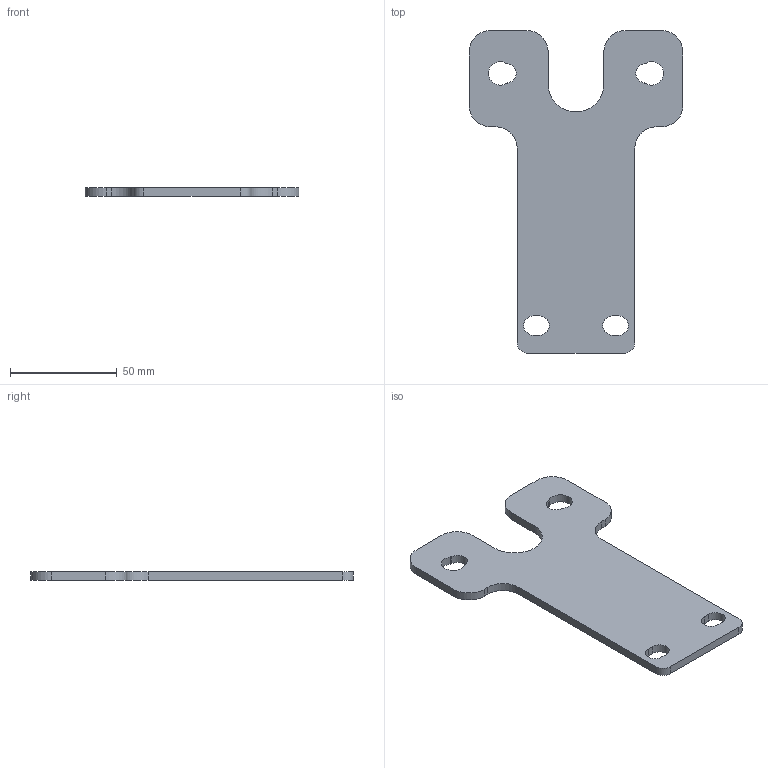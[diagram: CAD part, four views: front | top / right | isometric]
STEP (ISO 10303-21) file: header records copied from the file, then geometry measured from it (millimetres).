
FILE_DESCRIPTION(/* description */ ('CONVEYOR BRACKET FOR DRIVE UNIT'),/* implementation_level */ '2;1');
FILE_NAME(/* name */ '500-4365.stp',/* time_stamp */ '2022-09-22T08:56:57+02:00',/* author */ ('MD'),/* organization */ ('CARRYLINE'),/* preprocessor_version */ 'ST-DEVELOPER v19.2',/* originating_system */ 'Autodesk Inventor 2023',/* authorisation */ '');
FILE_SCHEMA (('AUTOMOTIVE_DESIGN { 1 0 10303 214 3 1 1 }'));
Length unit declared in the file: millimetre
Products named in the file (1): 500-4365
Bounding box: 100 x 151 x 4 mm (x, y, z)
Volume: 35661.6 mm3; surface area: 20520.1 mm2
Topology: 1 solids, 1 shells, 40 faces, 114 edges, 76 vertices
Faces by surface type: cylinder 23, plane 17
Entity records: 1383 total; most frequent: DIRECTION 242, CARTESIAN_POINT 231, ORIENTED_EDGE 228, EDGE_CURVE 114, AXIS2_PLACEMENT_3D 87, VERTEX_POINT 76, LINE 68, VECTOR 68
